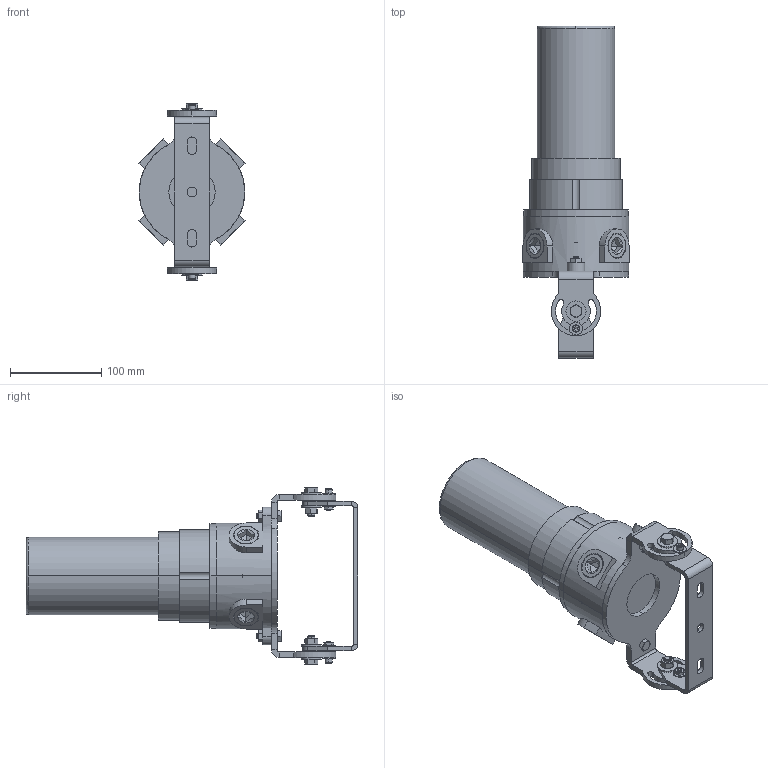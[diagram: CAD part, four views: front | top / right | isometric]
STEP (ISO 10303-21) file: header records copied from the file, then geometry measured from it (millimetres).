
FILE_DESCRIPTION (( 'STEP AP214' ), '1' );
FILE_NAME ('HAL-CMR-CRNM-IP-POE-4MP-IR.STEP', '2019-01-09T21:43:34', ( '' ), ( '' ), 'SwSTEP 2.0', 'SolidWorks 2016', '' );
FILE_SCHEMA (( 'AUTOMOTIVE_DESIGN' ));
Length unit declared in the file: inch
Products named in the file (14): HAL-CMR-CRNM-IP-POE-4MP-IR Trunnion A; HAL-CMR-IP-POE-PTZ-2MP; 0.75in Plug - Square Drive_1162T48; HAL-CMR-CRNM-IP-POE-4MP-IR; hex bolt_ai_HBOLT 0.2500-20x0.875x0.75-N; socket head cap screw_ai_HX-SHCS 0.19-24x0.75x0.75-N; hex bolt_ai_HBOLT 0.3125-18x1x0.875-N; machine screw nut hex_ai_MSHXNUT 0.250-20-S-N; machine screw nut hex_ai_MSHXNUT 0.190-24-S-N; hex nut_ai_HNUT 0.3125-18-D-N; flat washer type b regular_ai_Regular FW 0.3125; flat washer type b regular_ai_Regular FW 0.19; HKB-GL Trunnion B
Assembly tree (28 placements, depth 3):
  HAL-CMR-CRNM-IP-POE-4MP-IR
    HAL-CMR-IP-POE-PTZ-2MP
      HAL-CMR-IP-POE-PTZ-2MP
      0.75in Plug - Square Drive_1162T48  x4
    HAL-CMR-CRNM-IP-POE-4MP-IR Trunnion A
    HKB-GL Trunnion B
    flat washer type b regular_ai_Regular FW 0.19  x4
    flat washer type b regular_ai_Regular FW 0.3125  x4
    hex nut_ai_HNUT 0.3125-18-D-N  x2
    machine screw nut hex_ai_MSHXNUT 0.190-24-S-N  x2
    machine screw nut hex_ai_MSHXNUT 0.250-20-S-N  x2
    hex bolt_ai_HBOLT 0.3125-18x1x0.875-N  x2
    hex bolt_ai_HBOLT 0.2500-20x0.875x0.75-N  x2
    socket head cap screw_ai_HX-SHCS 0.19-24x0.75x0.75-N  x2
Bounding box: 116.29 x 363.74 x 194.21 mm (x, y, z)
Volume: 1451303.8 mm3; surface area: 280402.5 mm2
Topology: 29 solids, 29 shells, 820 faces, 1938 edges, 1202 vertices
Faces by surface type: plane 272, cylinder 266, cone 260, bspline 16, torus 6
Entity records: 22495 total; most frequent: CARTESIAN_POINT 9545, DIRECTION 2689, ORIENTED_EDGE 2458, EDGE_CURVE 1229, AXIS2_PLACEMENT_3D 1078, VERTEX_POINT 776, EDGE_LOOP 609, CIRCLE 541
